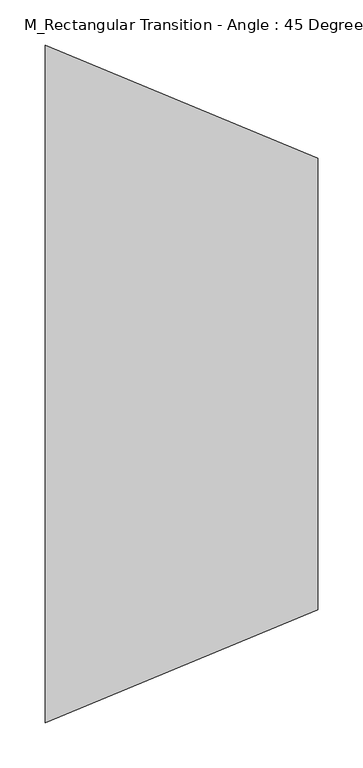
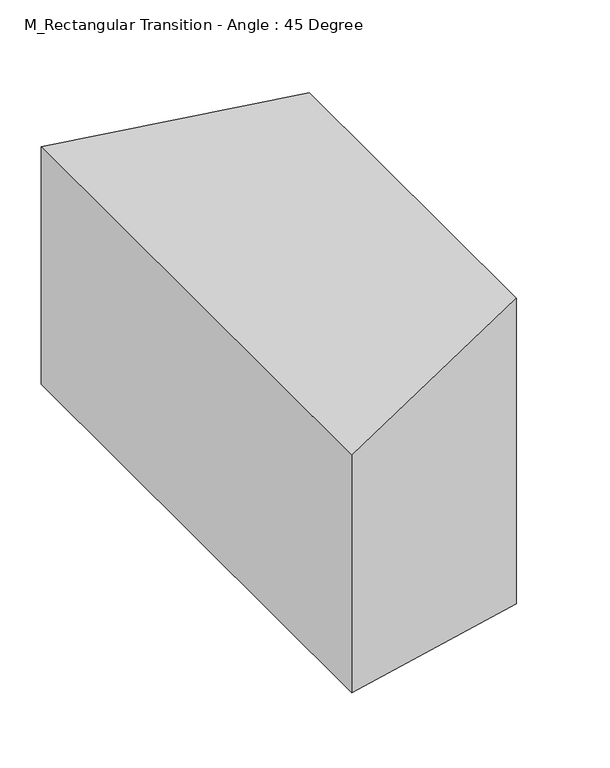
"""IFC4 building model written with IfcOpenShell, lengths in millimetres: duct fitting geometry, M_Rectangular Transition - Angle : 45 Degree."""

from ifc_helpers import new_model, si_unit, origin, place, context, project, spatial, faceted_brep, source, transform, mapped, element, save


def m_rectangular_transition_angle_45_degree_8ae24dc3(model_context):
    return source(origin(), model_context, "Body", "Brep", [
        faceted_brep([(301.7766953, -250.0, 225.0), (301.7766953, -250.0, -225.0), (301.7766953, 250.0, -225.0), (301.7766953, 250.0, 225.0), (0.0, -375.0, 175.0), (0.0, 375.0, 175.0), (0.0, 375.0, -175.0), (0.0, -375.0, -175.0)], [[[0, 1, 2, 3]], [[4, 5, 6, 7]], [[4, 7, 1, 0]], [[7, 6, 2, 1]], [[6, 5, 3, 2]], [[5, 4, 0, 3]]]),
        faceted_brep([(301.7766953, -250.0, 225.0), (301.7766953, -250.0, -225.0), (301.7766953, 250.0, -225.0), (301.7766953, 250.0, 225.0), (0.0, -375.0, 175.0), (0.0, 375.0, 175.0), (0.0, 375.0, -175.0), (0.0, -375.0, -175.0)], [[[0, 1, 2, 3]], [[4, 5, 6, 7]], [[4, 7, 1, 0]], [[7, 6, 2, 1]], [[6, 5, 3, 2]], [[5, 4, 0, 3]]]),
        faceted_brep([(301.7766953, -250.0, 225.0), (301.7766953, -250.0, -225.0), (301.7766953, 250.0, -225.0), (301.7766953, 250.0, 225.0), (0.0, -375.0, 175.0), (0.0, 375.0, 175.0), (0.0, 375.0, -175.0), (0.0, -375.0, -175.0)], [[[0, 1, 2, 3]], [[4, 5, 6, 7]], [[4, 7, 1, 0]], [[7, 6, 2, 1]], [[6, 5, 3, 2]], [[5, 4, 0, 3]]]),
    ])


if __name__ == "__main__":
    model = new_model("IFC4")
    model_context = context("Model", 3, world=origin())
    ifc_project = project(units=[si_unit("LENGTHUNIT", "METRE", prefix="MILLI")], contexts=[model_context])
    site = spatial("IfcSite", under=ifc_project)
    building = spatial("IfcBuilding", under=site)
    placement = place(None, origin())
    m_rectangular_transition_angle_45_degree_shape = m_rectangular_transition_angle_45_degree_8ae24dc3(model_context)
    element("IfcDuctFitting", 1, ObjectType="M_Rectangular Transition - Angle : 45 Degree", at=placement, inside=building, context=model_context, shape_type="MappedRepresentation", body=[
        mapped(m_rectangular_transition_angle_45_degree_shape, transform((0.0, 0.0, 0.0), x_axis=(1.0, 0.0, 0.0), y_axis=(0.0, 1.0, 0.0), z_axis=(0.0, 0.0, 1.0))),
    ])
    save(model, "model.ifc")
